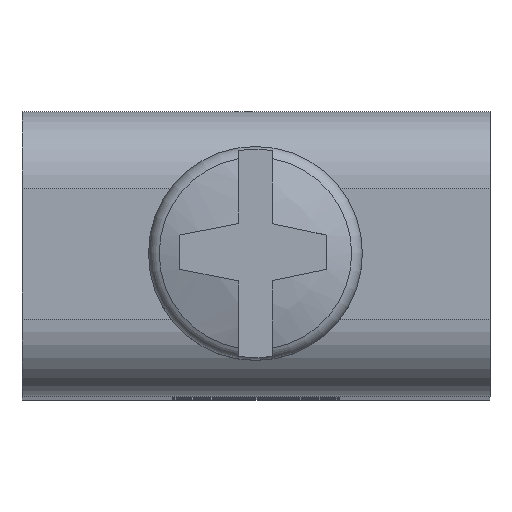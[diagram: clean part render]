
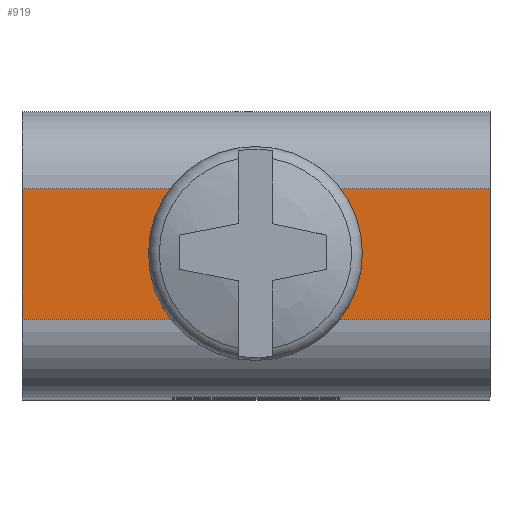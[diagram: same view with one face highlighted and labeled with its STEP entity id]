
A CAD part, top view. The second image highlights one B-rep face of the part: STEP entity #919.
In plain terms, the highlighted planar face has unit normal (0, 0, 1).
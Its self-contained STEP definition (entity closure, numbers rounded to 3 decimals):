
#42=FACE_BOUND('',#255,.T.);
#52=CIRCLE('',#950,1.9);
#117=PLANE('',#1002);
#181=FACE_OUTER_BOUND('',#254,.T.);
#254=EDGE_LOOP('',(#776,#777,#778,#779));
#255=EDGE_LOOP('',(#780));
#330=LINE('',#2944,#402);
#337=LINE('',#2964,#409);
#340=LINE('',#2971,#412);
#342=LINE('',#2974,#414);
#402=VECTOR('',#1165,10.);
#409=VECTOR('',#1190,10.);
#412=VECTOR('',#1197,1.236);
#414=VECTOR('',#1201,10.);
#441=VERTEX_POINT('',#2837);
#479=VERTEX_POINT('',#2941);
#480=VERTEX_POINT('',#2943);
#484=VERTEX_POINT('',#2962);
#486=VERTEX_POINT('',#2970);
#526=EDGE_CURVE('',#441,#441,#52,.T.);
#574=EDGE_CURVE('',#480,#479,#330,.T.);
#584=EDGE_CURVE('',#484,#479,#337,.T.);
#587=EDGE_CURVE('',#480,#486,#340,.T.);
#589=EDGE_CURVE('',#484,#486,#342,.T.);
#776=ORIENTED_EDGE('',*,*,#574,.T.);
#777=ORIENTED_EDGE('',*,*,#584,.F.);
#778=ORIENTED_EDGE('',*,*,#589,.T.);
#779=ORIENTED_EDGE('',*,*,#587,.F.);
#780=ORIENTED_EDGE('',*,*,#526,.T.);
#919=ADVANCED_FACE('',(#181,#42),#117,.F.);
#950=AXIS2_PLACEMENT_3D('',#2838,#1064,#1065);
#1002=AXIS2_PLACEMENT_3D('',#2981,#1214,#1215);
#1064=DIRECTION('center_axis',(0.,0.,
-1.));
#1065=DIRECTION('ref_axis',(1.,0.,0.));
#1165=DIRECTION('',(-1.,0.,0.));
#1190=DIRECTION('',(0.,1.,0.));
#1197=DIRECTION('',(0.,-1.,0.));
#1201=DIRECTION('',(1.,0.,0.));
#1214=DIRECTION('center_axis',(0.,0.,
-1.));
#1215=DIRECTION('ref_axis',(0.,1.,0.));
#2837=CARTESIAN_POINT('',(-5.1,4.25,0.));
#2838=CARTESIAN_POINT('Origin',(-7.,4.25,0.));
#2941=CARTESIAN_POINT('',(-14.,6.2,0.));
#2943=CARTESIAN_POINT('',(0.,6.2,0.));
#2944=CARTESIAN_POINT('',(-3.5,6.2,0.));
#2962=CARTESIAN_POINT('',(-14.,2.3,0.));
#2964=CARTESIAN_POINT('',(-14.,2.3,0.));
#2970=CARTESIAN_POINT('',(0.,2.3,0.));
#2971=CARTESIAN_POINT('',(0.,-1.583,0.));
#2974=CARTESIAN_POINT('',(-7.,2.3,0.));
#2981=CARTESIAN_POINT('Origin',(-7.,4.429,0.));
